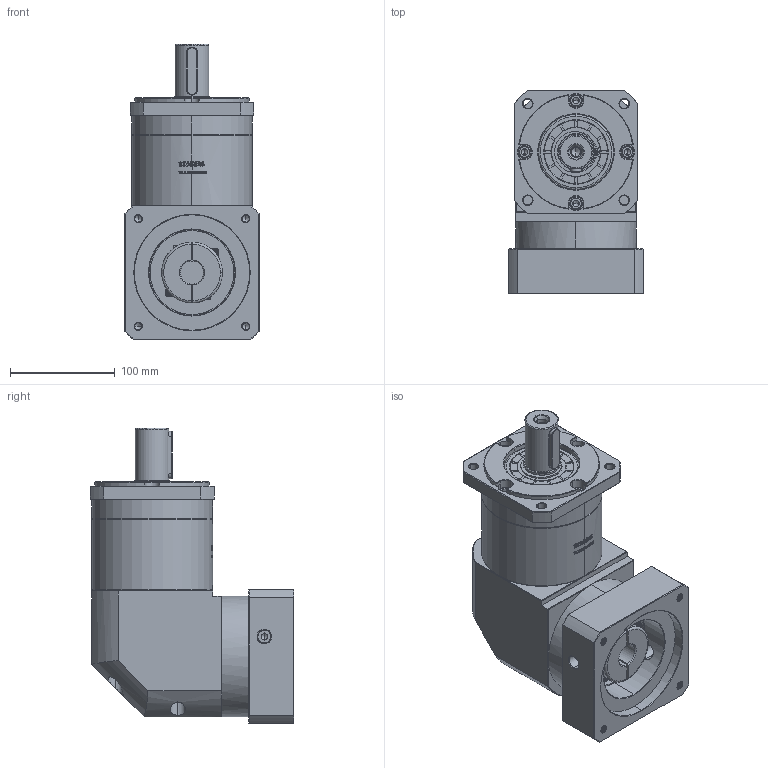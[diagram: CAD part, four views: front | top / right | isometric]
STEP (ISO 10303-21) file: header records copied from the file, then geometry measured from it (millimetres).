
FILE_DESCRIPTION (( 'STEP AP214' ), '1' );
FILE_NAME ('ZFR120A-D32-L2-22-110-145-M8.step', '2023-03-08T08:26:05', ( '' ), ( '' ), 'SwSTEP 2.0', 'SolidWorks 2016', '' );
FILE_SCHEMA (( 'AUTOMOTIVE_DESIGN' ));
Length unit declared in the file: millimetre
Products named in the file (1): ZFR120A-D32-L2-22-110-145-M8
Bounding box: 128 x 193.9 x 281.5 mm (x, y, z)
Volume: 3288852.6 mm3; surface area: 262878.9 mm2
Topology: 6 solids, 6 shells, 2871 faces, 7672 edges, 4946 vertices
Faces by surface type: plane 1484, bspline 607, cylinder 434, cone 338, torus 8
Entity records: 158159 total; most frequent: CARTESIAN_POINT 60798, ORIENTED_EDGE 15284, DIRECTION 11115, EDGE_CURVE 7642, VERTEX_POINT 4946, VECTOR 4749, LINE 4749, AXIS2_PLACEMENT_3D 3183
